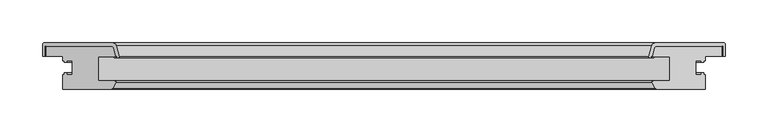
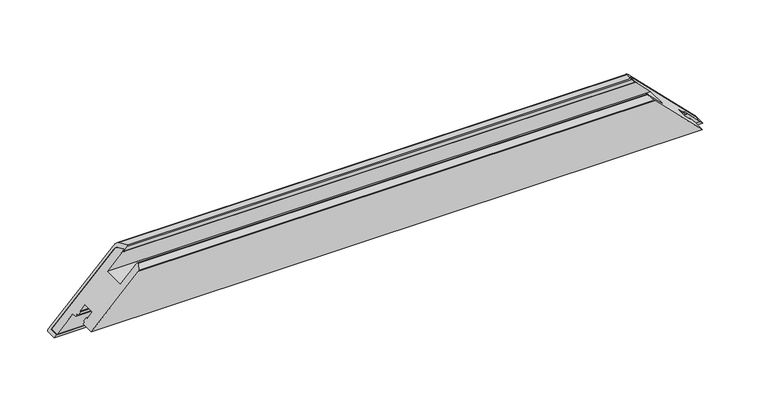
"""IFC4 building model written with IfcOpenShell, lengths in millimetres: proxy geometry, Weiku - Montante - Folha 02.2.01.018 : Weiku - Montante - Folha 02.2.01.018."""

from ifc_helpers import new_model, si_unit, frame, origin, place, context, project, spatial, polyline, ellipse_curve, source, transform, mapped, element, save
from ifc_brep_helpers import plane_surface, cylinder_surface, revolved_surface, advanced_brep


def generic_models_b9894714(model_context):
    return source(origin(), model_context, "Body", "AdvancedBrep", [
        advanced_brep(
        [(395.5, 50.0, 0.0), (318.4997332, 50.0, 77.0002668), (-318.4997332, 50.0, 77.0002668), (-395.5, 50.0, 0.0), (315.6019557, 47.7764571, 79.8980443), (-315.6019557, 47.7764571, 79.8980443), (313.0170371, 38.1294095, 82.4829629), (-313.0170371, 38.1294095, 82.4829629), (313.5, 37.5, 82.0), (-313.5, 37.5, 82.0), (314.3560102, 37.5, 81.1439898), (-314.3560102, 37.5, 81.1439898), (314.3560102, 36.5, 81.1439898), (-314.3560102, 36.5, 81.1439898), (309.7425588, 36.5, 85.7574412), (-309.7425588, 36.5, 85.7574412), (308.7766329, 37.758819, 86.7233671), (-308.7766329, 37.758819, 86.7233671), (312.1354501, 50.2940952, 83.3645499), (-312.1354501, 50.2940952, 83.3645499), (316.9650792, 54.0, 78.5349208), (-316.9650792, 54.0, 78.5349208), (396.5, 54.0, -1.0), (-396.5, 54.0, -1.0), (398.5, 52.0, -3.0), (-398.5, 52.0, -3.0), (398.5, 38.5, -3.0), (-398.5, 38.5, -3.0), (395.5, 38.5, 0.0), (-395.5, 38.5, 0.0)],
        [
            (0, 1),
            (1, 2),
            (2, 3),
            (3, 0),
            (1, 4, ellipse_curve(frame((318.4997332, 47.0, 77.0002668), z_axis=(0.707106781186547, 0.0, 0.7071067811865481), x_axis=(0.7071067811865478, 0.0, -0.707106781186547)), 4.2426407, 3.0)),
            (4, 5),
            (5, 2, ellipse_curve(frame((-318.4997332, 47.0, 77.0002668), z_axis=(-0.7071067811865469, 0.0, 0.7071067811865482), x_axis=(0.707106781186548, 0.0, 0.7071067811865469)), 4.2426407, 3.0)),
            (4, 6),
            (6, 7),
            (7, 5),
            (6, 8, ellipse_curve(frame((313.5, 38.0, 82.0), z_axis=(0.707106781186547, 0.0, 0.7071067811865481), x_axis=(0.7071067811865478, 0.0, -0.707106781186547)), 0.7071068, 0.5)),
            (8, 9),
            (9, 7, ellipse_curve(frame((-313.5, 38.0, 82.0), z_axis=(-0.7071067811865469, 0.0, 0.7071067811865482), x_axis=(0.707106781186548, 0.0, 0.7071067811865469)), 0.7071068, 0.5)),
            (8, 10),
            (10, 11),
            (11, 9),
            (10, 12, ellipse_curve(frame((314.3560102, 37.0, 81.1439898), z_axis=(-0.707106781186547, 0.0, -0.7071067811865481), x_axis=(-0.7071067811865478, 0.0, 0.707106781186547)), 0.7071068, 0.5)),
            (12, 13),
            (13, 11, ellipse_curve(frame((-314.3560102, 37.0, 81.1439898), z_axis=(0.7071067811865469, 0.0, -0.7071067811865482), x_axis=(-0.707106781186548, 0.0, -0.7071067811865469)), 0.7071068, 0.5)),
            (12, 14),
            (14, 15),
            (15, 13),
            (14, 16, ellipse_curve(frame((309.7425588, 37.5, 85.7574412), z_axis=(-0.707106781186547, 0.0, -0.7071067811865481), x_axis=(-0.7071067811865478, 0.0, 0.707106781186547)), 1.4142136, 1.0)),
            (16, 17),
            (17, 15, ellipse_curve(frame((-309.7425588, 37.5, 85.7574412), z_axis=(0.7071067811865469, 0.0, -0.7071067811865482), x_axis=(-0.707106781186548, 0.0, -0.7071067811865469)), 1.4142136, 1.0)),
            (16, 18),
            (18, 19),
            (19, 17),
            (18, 20, ellipse_curve(frame((316.9650792, 49.0, 78.5349208), z_axis=(-0.707106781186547, 0.0, -0.7071067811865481), x_axis=(-0.7071067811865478, 0.0, 0.707106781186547)), 7.0710678, 5.0)),
            (20, 21),
            (21, 19, ellipse_curve(frame((-316.9650792, 49.0, 78.5349208), z_axis=(0.7071067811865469, 0.0, -0.7071067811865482), x_axis=(-0.707106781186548, 0.0, -0.7071067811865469)), 7.0710678, 5.0)),
            (20, 22),
            (22, 23),
            (23, 21),
            (22, 24, ellipse_curve(frame((396.5, 52.0, -1.0), z_axis=(-0.707106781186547, 0.0, -0.7071067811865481), x_axis=(-0.7071067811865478, 0.0, 0.707106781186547)), 2.8284271, 2.0)),
            (24, 25),
            (25, 23, ellipse_curve(frame((-396.5, 52.0, -1.0), z_axis=(0.7071067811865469, 0.0, -0.7071067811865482), x_axis=(-0.707106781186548, 0.0, -0.7071067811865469)), 2.8284271, 2.0)),
            (24, 26),
            (26, 27),
            (27, 25),
            (26, 28),
            (28, 29),
            (29, 27),
            (28, 0),
            (3, 29),
        ],
        [
            plane_surface(frame((-415.5, 50.0, 0.0), z_axis=(0.0, -1.0, 0.0), x_axis=(1.0, 0.0, 0.0))),
            revolved_surface(polyline([(321.49973320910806, 50.0, 77.0002668), (-321.49973320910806, 50.0, 77.0002668)]), (-415.5, 47.0, 77.0002668), (1.0, 0.0, 0.0)),
            plane_surface(frame((-415.5, 47.7764571, 79.8980443), z_axis=(0.0, -0.2588190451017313, -0.9659258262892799), x_axis=(1.0, 0.0, 0.0))),
            revolved_surface(polyline([(314.00000001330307, 38.5, 82.0), (-314.0000000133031, 38.5, 82.0)]), (-415.5, 38.0, 82.0), (1.0, 0.0, 0.0)),
            plane_surface(frame((-415.5, 37.5, 82.0), z_axis=(0.0, 1.0, 0.0), x_axis=(1.0, 0.0, 0.0))),
            cylinder_surface(frame((-415.5, 37.0, 81.1439898), z_axis=(-1.0, 0.0, 0.0), x_axis=(0.0, 1.0, 0.0)), 0.5),
            plane_surface(frame((-415.5, 36.5, 81.1439898), z_axis=(0.0, -1.0, 0.0), x_axis=(1.0, 0.0, 0.0))),
            cylinder_surface(frame((-415.5, 37.5, 85.7574412), z_axis=(-1.0, 0.0, 0.0), x_axis=(0.0, 1.0, 0.0)), 1.0),
            plane_surface(frame((-415.5, 37.758819, 86.7233671), z_axis=(0.0, 0.25881904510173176, 0.9659258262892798), x_axis=(1.0, 0.0, 0.0))),
            cylinder_surface(frame((-415.5, 49.0, 78.5349208), z_axis=(-1.0, 0.0, 0.0), x_axis=(0.0, 1.0, 0.0)), 5.0),
            plane_surface(frame((-415.5, 54.0, 78.5349208), z_axis=(0.0, 1.0, 0.0), x_axis=(1.0, 0.0, 0.0))),
            cylinder_surface(frame((-415.5, 52.0, -1.0), z_axis=(-1.0, 0.0, 0.0), x_axis=(0.0, 1.0, 0.0)), 2.0),
            plane_surface(frame((-415.5, 52.0, -3.0), z_axis=(0.0, 0.0, -1.0), x_axis=(1.0, 0.0, 0.0))),
            plane_surface(frame((-415.5, 38.5, -3.0), z_axis=(0.0, -1.0, 0.0), x_axis=(1.0, 0.0, 0.0))),
            plane_surface(frame((-415.5, 38.5, 0.0), z_axis=(0.0, 0.0, 1.0), x_axis=(1.0, 0.0, 0.0))),
            plane_surface(frame((305.5, 0.0, 90.0), z_axis=(0.707106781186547, 0.0, 0.7071067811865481), x_axis=(0.0, 1.0, 0.0))),
            plane_surface(frame((-423.7842712, 0.0, -28.2842712), z_axis=(-0.7071067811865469, 0.0, 0.7071067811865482), x_axis=(0.0, 1.0, 0.0))),
        ],
        [
            (0, [[1, 2, 3, 4]]),
            (1, [[5, 6, 7, -2]]),
            (2, [[8, 9, 10, -6]]),
            (3, [[11, 12, 13, -9]]),
            (4, [[14, 15, 16, -12]]),
            (5, [[17, 18, 19, -15]]),
            (6, [[20, 21, 22, -18]]),
            (7, [[23, 24, 25, -21]]),
            (8, [[26, 27, 28, -24]]),
            (9, [[29, 30, 31, -27]]),
            (10, [[32, 33, 34, -30]]),
            (11, [[35, 36, 37, -33]]),
            (12, [[38, 39, 40, -36]]),
            (13, [[41, 42, 43, -39]]),
            (14, [[44, -4, 45, -42]]),
            (15, [[-1, -44, -41, -38, -35, -32, -29, -26, -23, -20, -17, -14, -11, -8, -5]]),
            (16, [[-3, -7, -10, -13, -16, -19, -22, -25, -28, -31, -34, -37, -40, -43, -45]]),
        ],
    ),
        advanced_brep(
        [(395.5, 50.0, 0.0), (-395.5, 50.0, 0.0), (-318.4997332, 50.0, 77.0002668), (318.4997332, 50.0, 77.0002668), (395.5, 38.5, 0.0), (-395.5, 38.5, 0.0), (-317.4872264, 0.0, 78.0127736), (-375.5, 0.0, 20.0), (375.5, 0.0, 20.0), (317.4872264, 0.0, 78.0127736), (-375.5, 38.5, 20.0), (-375.5, 33.1, 20.0), (-373.3, 33.1, 22.2), (-373.3, 31.1, 22.2), (-370.5, 31.1, 25.0), (-370.5, 33.1, 25.0), (-364.0, 33.1, 31.5), (-364.0, 16.9, 31.5), (-370.5, 16.9, 25.0), (-370.5, 18.9, 25.0), (-373.3, 18.9, 22.2), (-373.3, 16.9, 22.2), (-375.5, 16.9, 20.0), (-316.5932657, 0.5518546, 78.9067343), (-313.0512796, 7.617411, 82.4487204), (-314.2134285, 9.5, 81.2865715), (-334.0, 9.5, 61.5), (-334.0, 37.5, 61.5), (-313.5, 37.5, 82.0), (-313.0170371, 38.1294095, 82.4829629), (-315.6019557, 47.7764571, 79.8980443), (315.6019557, 47.7764571, 79.8980443), (313.0170371, 38.1294095, 82.4829629), (313.5, 37.5, 82.0), (334.0, 37.5, 61.5), (334.0, 9.5, 61.5), (314.2134285, 9.5, 81.2865715), (313.0512796, 7.617411, 82.4487204), (316.5932657, 0.5518546, 78.9067343), (375.5, 16.9, 20.0), (373.3, 16.9, 22.2), (373.3, 18.9, 22.2), (370.5, 18.9, 25.0), (370.5, 16.9, 25.0), (364.0, 16.9, 31.5), (364.0, 33.1, 31.5), (370.5, 33.1, 25.0), (370.5, 31.1, 25.0), (373.3, 31.1, 22.2), (373.3, 33.1, 22.2), (375.5, 33.1, 20.0), (375.5, 38.5, 20.0)],
        [
            (0, 1),
            (1, 2),
            (2, 3),
            (3, 0),
            (0, 4),
            (4, 5),
            (5, 1),
            (6, 7),
            (7, 8),
            (8, 9),
            (9, 6),
            (5, 10),
            (10, 11),
            (11, 12),
            (12, 13),
            (13, 14),
            (14, 15),
            (15, 16),
            (16, 17),
            (17, 18),
            (18, 19),
            (19, 20),
            (20, 21),
            (21, 22),
            (22, 7),
            (6, 23, ellipse_curve(frame((-317.4872264, 1.0, 78.0127736), z_axis=(-0.7071067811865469, 0.0, 0.7071067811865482), x_axis=(-0.707106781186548, 0.0, -0.7071067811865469)), 1.4142136, 1.0)),
            (23, 24),
            (24, 25, ellipse_curve(frame((-314.2134285, 8.2, 81.2865715), z_axis=(-0.7071067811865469, 0.0, 0.7071067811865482), x_axis=(-0.707106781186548, 0.0, -0.7071067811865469)), 1.8384776, 1.3)),
            (25, 26),
            (26, 27),
            (27, 28),
            (28, 29, ellipse_curve(frame((-313.5, 38.0, 82.0), z_axis=(-0.7071067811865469, 0.0, 0.7071067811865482), x_axis=(-0.707106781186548, 0.0, -0.7071067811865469)), 0.7071068, 0.5)),
            (29, 30),
            (30, 2, ellipse_curve(frame((-318.4997332, 47.0, 77.0002668), z_axis=(-0.7071067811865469, 0.0, 0.7071067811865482), x_axis=(-0.707106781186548, 0.0, -0.7071067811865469)), 4.2426407, 3.0)),
            (3, 31, ellipse_curve(frame((318.4997332, 47.0, 77.0002668), z_axis=(0.707106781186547, 0.0, 0.7071067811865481), x_axis=(-0.7071067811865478, 0.0, 0.707106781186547)), 4.2426407, 3.0)),
            (31, 32),
            (32, 33, ellipse_curve(frame((313.5, 38.0, 82.0), z_axis=(0.707106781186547, 0.0, 0.7071067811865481), x_axis=(-0.7071067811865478, 0.0, 0.707106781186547)), 0.7071068, 0.5)),
            (33, 34),
            (34, 35),
            (35, 36),
            (36, 37, ellipse_curve(frame((314.2134285, 8.2, 81.2865715), z_axis=(0.707106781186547, 0.0, 0.7071067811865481), x_axis=(-0.7071067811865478, 0.0, 0.707106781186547)), 1.8384776, 1.3)),
            (37, 38),
            (38, 9, ellipse_curve(frame((317.4872264, 1.0, 78.0127736), z_axis=(0.707106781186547, 0.0, 0.7071067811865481), x_axis=(-0.7071067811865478, 0.0, 0.707106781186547)), 1.4142136, 1.0)),
            (8, 39),
            (39, 40),
            (40, 41),
            (41, 42),
            (42, 43),
            (43, 44),
            (44, 45),
            (45, 46),
            (46, 47),
            (47, 48),
            (48, 49),
            (49, 50),
            (50, 51),
            (51, 4),
            (38, 23),
            (37, 24),
            (36, 25),
            (35, 26),
            (34, 27),
            (33, 28),
            (32, 29),
            (31, 30),
            (51, 10),
            (50, 11),
            (49, 12),
            (48, 13),
            (47, 14),
            (46, 15),
            (45, 16),
            (44, 17),
            (43, 18),
            (42, 19),
            (41, 20),
            (40, 21),
            (39, 22),
        ],
        [
            plane_surface(frame((-395.5, 50.0, 77.0002668), z_axis=(0.0, 1.0, 0.0), x_axis=(1.0, 0.0, 0.0))),
            plane_surface(frame((-395.5, 50.0, 0.0), z_axis=(0.0, 0.0, -1.0), x_axis=(1.0, 0.0, 0.0))),
            plane_surface(frame((-395.5, 0.0, 20.0), z_axis=(0.0, -1.0, 0.0), x_axis=(1.0, 0.0, 0.0))),
            plane_surface(frame((-423.7842712, 0.0, -28.2842712), z_axis=(-0.7071067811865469, 0.0, 0.7071067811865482), x_axis=(0.0, 1.0, 0.0))),
            plane_surface(frame((305.5, 0.0, 90.0), z_axis=(0.707106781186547, 0.0, 0.7071067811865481), x_axis=(0.0, 1.0, 0.0))),
            cylinder_surface(frame((-395.5, 1.0, 78.0127736), z_axis=(-1.0, 0.0, 0.0), x_axis=(0.0, 1.0, 0.0)), 1.0),
            plane_surface(frame((-395.5, 0.5518546, 78.9067343), z_axis=(0.0, -0.4481453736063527, 0.8939606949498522), x_axis=(1.0, 0.0, 0.0))),
            cylinder_surface(frame((-395.5, 8.2, 81.2865715), z_axis=(-1.0, 0.0, 0.0), x_axis=(0.0, 1.0, 0.0)), 1.3),
            plane_surface(frame((-395.5, 9.5, 81.2865715), z_axis=(0.0, 1.0, 0.0), x_axis=(1.0, 0.0, 0.0))),
            plane_surface(frame((-395.5, 9.5, 61.5), z_axis=(0.0, 0.0, 1.0), x_axis=(1.0, 0.0, 0.0))),
            plane_surface(frame((-395.5, 37.5, 61.5), z_axis=(0.0, -1.0, 0.0), x_axis=(1.0, 0.0, 0.0))),
            cylinder_surface(frame((-395.5, 38.0, 82.0), z_axis=(-1.0, 0.0, 0.0), x_axis=(0.0, 1.0, 0.0)), 0.5),
            plane_surface(frame((-395.5, 38.1294095, 82.4829629), z_axis=(0.0, 0.2588190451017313, 0.9659258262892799), x_axis=(1.0, 0.0, 0.0))),
            cylinder_surface(frame((-395.5, 47.0, 77.0002668), z_axis=(-1.0, 0.0, 0.0), x_axis=(0.0, 1.0, 0.0)), 3.0),
            plane_surface(frame((-395.5, 38.5, 0.0), z_axis=(0.0, -1.0, 0.0), x_axis=(1.0, 0.0, 0.0))),
            plane_surface(frame((-395.5, 38.5, 20.0), z_axis=(0.0, 0.0, -1.0), x_axis=(1.0, 0.0, 0.0))),
            plane_surface(frame((-395.5, 33.1, 20.0), z_axis=(0.0, -1.0, 0.0), x_axis=(1.0, 0.0, 0.0))),
            plane_surface(frame((-395.5, 33.1, 22.2), z_axis=(0.0, 0.0, -1.0), x_axis=(1.0, 0.0, 0.0))),
            plane_surface(frame((-395.5, 31.1, 22.2), z_axis=(0.0, -1.0, 0.0), x_axis=(1.0, 0.0, 0.0))),
            plane_surface(frame((-395.5, 31.1, 25.0), z_axis=(0.0, 0.0, 1.0), x_axis=(1.0, 0.0, 0.0))),
            plane_surface(frame((-395.5, 33.1, 25.0), z_axis=(0.0, -1.0, 0.0), x_axis=(1.0, 0.0, 0.0))),
            plane_surface(frame((-395.5, 33.1, 31.5), z_axis=(0.0, 0.0, -1.0), x_axis=(1.0, 0.0, 0.0))),
            plane_surface(frame((-395.5, 16.9, 31.5), z_axis=(0.0, 1.0, 0.0), x_axis=(1.0, 0.0, 0.0))),
            plane_surface(frame((-395.5, 16.9, 25.0), z_axis=(0.0, 0.0, 1.0), x_axis=(1.0, 0.0, 0.0))),
            plane_surface(frame((-395.5, 18.9, 25.0), z_axis=(0.0, 1.0, 0.0), x_axis=(1.0, 0.0, 0.0))),
            plane_surface(frame((-395.5, 18.9, 22.2), z_axis=(0.0, 0.0, -1.0), x_axis=(1.0, 0.0, 0.0))),
            plane_surface(frame((-395.5, 16.9, 22.2), z_axis=(0.0, 1.0, 0.0), x_axis=(1.0, 0.0, 0.0))),
            plane_surface(frame((-395.5, 16.9, 20.0), z_axis=(0.0, 0.0, -1.0), x_axis=(1.0, 0.0, 0.0))),
        ],
        [
            (0, [[1, 2, 3, 4]]),
            (1, [[-1, 5, 6, 7]]),
            (2, [[8, 9, 10, 11]]),
            (3, [[-2, -7, 12, 13, 14, 15, 16, 17, 18, 19, 20, 21, 22, 23, 24, 25, -8, 26, 27, 28, 29, 30, 31, 32, 33, 34]]),
            (4, [[-4, 35, 36, 37, 38, 39, 40, 41, 42, 43, -10, 44, 45, 46, 47, 48, 49, 50, 51, 52, 53, 54, 55, 56, 57, -5]]),
            (5, [[-26, -11, -43, 58]]),
            (6, [[-27, -58, -42, 59]]),
            (7, [[-28, -59, -41, 60]]),
            (8, [[-29, -60, -40, 61]]),
            (9, [[-30, -61, -39, 62]]),
            (10, [[-31, -62, -38, 63]]),
            (11, [[-32, -63, -37, 64]]),
            (12, [[-33, -64, -36, 65]]),
            (13, [[-34, -65, -35, -3]]),
            (14, [[-6, -57, 66, -12]]),
            (15, [[-13, -66, -56, 67]]),
            (16, [[-14, -67, -55, 68]]),
            (17, [[-15, -68, -54, 69]]),
            (18, [[-16, -69, -53, 70]]),
            (19, [[-17, -70, -52, 71]]),
            (20, [[-18, -71, -51, 72]]),
            (21, [[-19, -72, -50, 73]]),
            (22, [[-20, -73, -49, 74]]),
            (23, [[-21, -74, -48, 75]]),
            (24, [[-22, -75, -47, 76]]),
            (25, [[-23, -76, -46, 77]]),
            (26, [[-24, -77, -45, 78]]),
            (27, [[-25, -78, -44, -9]]),
        ],
    ),
    ])


if __name__ == "__main__":
    model = new_model("IFC4")
    model_context = context("Model", 3, world=origin())
    ifc_project = project(units=[si_unit("LENGTHUNIT", "METRE", prefix="MILLI")], contexts=[model_context])
    site = spatial("IfcSite", under=ifc_project)
    building = spatial("IfcBuilding", under=site)
    placement = place(None, origin())
    generic_models_shape = generic_models_b9894714(model_context)
    element("IfcBuildingElementProxy", 1, Name="Weiku - Montante - Folha 02.2.01.018 : Weiku - Montante - Folha 02.2.01.018", ObjectType="Weiku - Montante - Folha 02.2.01.018 : Weiku - Montante - Folha 02.2.01.018", at=placement, inside=building, context=model_context, shape_type="MappedRepresentation", body=[
        mapped(generic_models_shape, transform((0.0, 0.0, 0.0), x_axis=(1.0, 0.0, 0.0), y_axis=(0.0, 1.0, 0.0), z_axis=(0.0, 0.0, 1.0))),
    ])
    save(model, "model.ifc")
